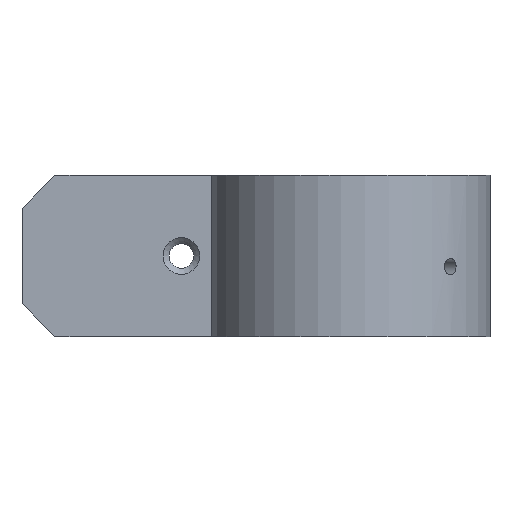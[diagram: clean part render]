
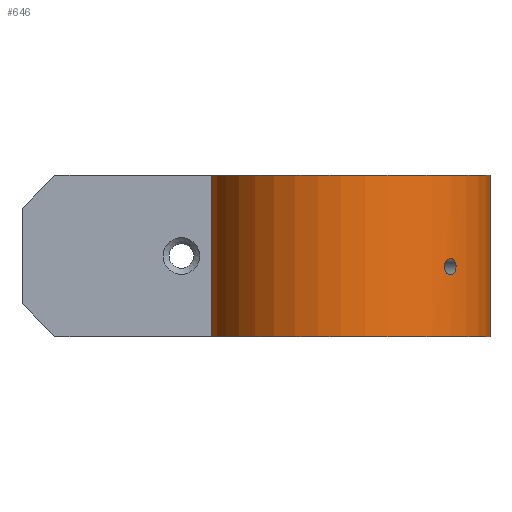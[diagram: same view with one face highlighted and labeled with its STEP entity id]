
A CAD part, left-side view. The second image highlights one B-rep face of the part: STEP entity #646.
In plain terms, the highlighted cylindrical face has radius 22.95 mm (diameter 45.9 mm), a partial arc.
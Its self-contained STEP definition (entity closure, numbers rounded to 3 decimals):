
#17=B_SPLINE_CURVE_WITH_KNOTS('',3,(#1103,#1104,#1105,#1106,#1107,#1108,
#1109,#1110,#1111,#1112),.UNSPECIFIED.,.F.,.F.,(4,2,2,2,4),(0.,0.057,
0.113,0.17,0.226),.UNSPECIFIED.);
#18=B_SPLINE_CURVE_WITH_KNOTS('',3,(#1113,#1114,#1115,#1116,#1117,#1118,
#1119,#1120,#1121,#1122,#1123,#1124,#1125,#1126,#1127,#1128,#1129,#1130,
#1131,#1132,#1133,#1134,#1135,#1136,#1137,#1138),.UNSPECIFIED.,.F.,.F.,
(4,2,2,2,2,2,2,2,2,2,2,2,4),(0.226,0.283,0.339,
0.396,0.452,0.509,0.565,
0.622,0.678,0.735,0.791,
0.848,0.904),.UNSPECIFIED.);
#23=FACE_BOUND('',#111,.T.);
#48=CYLINDRICAL_SURFACE('',#715,22.95);
#73=FACE_OUTER_BOUND('',#110,.T.);
#110=EDGE_LOOP('',(#563,#564,#565,#566));
#111=EDGE_LOOP('',(#567,#568));
#130=LINE('',#928,#197);
#154=LINE('',#991,#221);
#197=VECTOR('',#749,10.);
#221=VECTOR('',#799,10.);
#275=CIRCLE('',#706,22.95);
#281=CIRCLE('',#713,22.95);
#288=VERTEX_POINT('',#925);
#289=VERTEX_POINT('',#927);
#314=VERTEX_POINT('',#988);
#315=VERTEX_POINT('',#990);
#342=VERTEX_POINT('',#1100);
#343=VERTEX_POINT('',#1102);
#352=EDGE_CURVE('',#289,#288,#130,.T.);
#382=EDGE_CURVE('',#315,#314,#154,.T.);
#405=EDGE_CURVE('',#314,#289,#275,.F.);
#419=EDGE_CURVE('',#315,#288,#281,.T.);
#423=EDGE_CURVE('',#343,#342,#17,.T.);
#424=EDGE_CURVE('',#342,#343,#18,.T.);
#563=ORIENTED_EDGE('',*,*,#405,.T.);
#564=ORIENTED_EDGE('',*,*,#352,.T.);
#565=ORIENTED_EDGE('',*,*,#419,.F.);
#566=ORIENTED_EDGE('',*,*,#382,.T.);
#567=ORIENTED_EDGE('',*,*,#423,.T.);
#568=ORIENTED_EDGE('',*,*,#424,.T.);
#646=ADVANCED_FACE('',(#73,#23),#48,.T.);
#706=AXIS2_PLACEMENT_3D('',#1033,#841,#842);
#713=AXIS2_PLACEMENT_3D('',#1060,#863,#864);
#715=AXIS2_PLACEMENT_3D('',#1139,#868,#869);
#749=DIRECTION('',(0.,0.,1.));
#799=DIRECTION('',(0.,0.,-1.));
#841=DIRECTION('center_axis',(0.,0.,-1.));
#842=DIRECTION('ref_axis',(1.,0.,0.));
#863=DIRECTION('center_axis',(0.,0.,1.));
#864=DIRECTION('ref_axis',(1.,0.,0.));
#868=DIRECTION('center_axis',(0.,0.,1.));
#869=DIRECTION('ref_axis',(-0.759,-0.651,0.));
#925=CARTESIAN_POINT('',(21.39,-12.147,18.5));
#927=CARTESIAN_POINT('',(21.39,-12.147,-7.95));
#928=CARTESIAN_POINT('',(21.39,-12.147,-7.95));
#988=CARTESIAN_POINT('',(-3.575,16.972,-7.95));
#990=CARTESIAN_POINT('',(-3.575,16.972,18.5));
#991=CARTESIAN_POINT('',(-3.575,16.972,-7.95));
#1033=CARTESIAN_POINT('Origin',(-0.663,-5.792,-7.95));
#1060=CARTESIAN_POINT('Origin',(-0.663,-5.792,18.5));
#1100=CARTESIAN_POINT('',(-16.735,-22.175,2.175));
#1102=CARTESIAN_POINT('',(-15.743,-23.092,3.525));
#1103=CARTESIAN_POINT('Ctrl Pts',(-15.743,-23.092,3.525));
#1104=CARTESIAN_POINT('Ctrl Pts',(-15.743,-23.092,3.355));
#1105=CARTESIAN_POINT('Ctrl Pts',(-15.768,-23.07,3.175));
#1106=CARTESIAN_POINT('Ctrl Pts',(-15.872,-22.979,2.842));
#1107=CARTESIAN_POINT('Ctrl Pts',(-15.95,-22.91,2.69));
#1108=CARTESIAN_POINT('Ctrl Pts',(-16.128,-22.749,2.451));
#1109=CARTESIAN_POINT('Ctrl Pts',(-16.24,-22.646,2.347));
#1110=CARTESIAN_POINT('Ctrl Pts',(-16.483,-22.419,2.209));
#1111=CARTESIAN_POINT('Ctrl Pts',(-16.614,-22.294,2.175));
#1112=CARTESIAN_POINT('Ctrl Pts',(-16.735,-22.175,2.175));
#1113=CARTESIAN_POINT('Ctrl Pts',(-16.735,-22.175,2.175));
#1114=CARTESIAN_POINT('Ctrl Pts',(-16.856,-22.056,2.175));
#1115=CARTESIAN_POINT('Ctrl Pts',(-16.983,-21.928,2.209));
#1116=CARTESIAN_POINT('Ctrl Pts',(-17.215,-21.69,2.347));
#1117=CARTESIAN_POINT('Ctrl Pts',(-17.32,-21.58,2.451));
#1118=CARTESIAN_POINT('Ctrl Pts',(-17.484,-21.405,2.69));
#1119=CARTESIAN_POINT('Ctrl Pts',(-17.554,-21.328,2.842));
#1120=CARTESIAN_POINT('Ctrl Pts',(-17.647,-21.227,3.175));
#1121=CARTESIAN_POINT('Ctrl Pts',(-17.67,-21.201,3.355));
#1122=CARTESIAN_POINT('Ctrl Pts',(-17.67,-21.201,3.695));
#1123=CARTESIAN_POINT('Ctrl Pts',(-17.647,-21.227,3.875));
#1124=CARTESIAN_POINT('Ctrl Pts',(-17.554,-21.328,4.208));
#1125=CARTESIAN_POINT('Ctrl Pts',(-17.484,-21.405,4.36));
#1126=CARTESIAN_POINT('Ctrl Pts',(-17.32,-21.58,4.599));
#1127=CARTESIAN_POINT('Ctrl Pts',(-17.215,-21.69,4.703));
#1128=CARTESIAN_POINT('Ctrl Pts',(-16.983,-21.928,4.841));
#1129=CARTESIAN_POINT('Ctrl Pts',(-16.856,-22.056,4.875));
#1130=CARTESIAN_POINT('Ctrl Pts',(-16.613,-22.294,4.875));
#1131=CARTESIAN_POINT('Ctrl Pts',(-16.483,-22.419,4.841));
#1132=CARTESIAN_POINT('Ctrl Pts',(-16.24,-22.646,4.703));
#1133=CARTESIAN_POINT('Ctrl Pts',(-16.128,-22.749,4.599));
#1134=CARTESIAN_POINT('Ctrl Pts',(-15.95,-22.91,4.36));
#1135=CARTESIAN_POINT('Ctrl Pts',(-15.872,-22.979,4.208));
#1136=CARTESIAN_POINT('Ctrl Pts',(-15.768,-23.07,3.875));
#1137=CARTESIAN_POINT('Ctrl Pts',(-15.743,-23.092,3.695));
#1138=CARTESIAN_POINT('Ctrl Pts',(-15.743,-23.092,3.525));
#1139=CARTESIAN_POINT('Origin',(-0.663,-5.792,-7.95));
